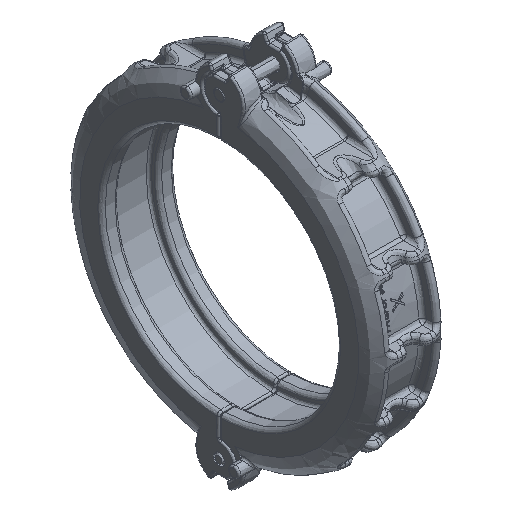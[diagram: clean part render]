
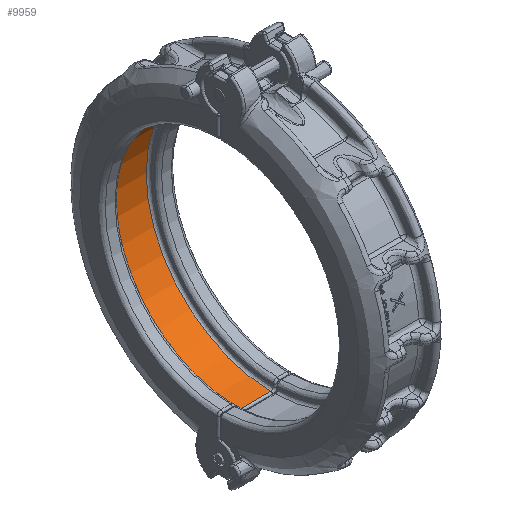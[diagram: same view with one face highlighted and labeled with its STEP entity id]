
A CAD part, isometric view. The second image highlights one B-rep face of the part: STEP entity #9959.
In plain terms, the highlighted free-form (B-spline) face has degree [1, 3] with [2, 19] control points.
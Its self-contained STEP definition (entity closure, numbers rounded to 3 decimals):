
#9959=ADVANCED_FACE('',(#25748),#25749,.T.);
#11317=VERTEX_POINT('',#27165);
#11323=VERTEX_POINT('',#27171);
#11325=EDGE_CURVE('',#11317,#11323,#27173,.T.);
#11999=VERTEX_POINT('',#27847);
#12005=VERTEX_POINT('',#27853);
#12007=EDGE_CURVE('',#11999,#12005,#27855,.T.);
#21523=EDGE_CURVE('',#12005,#11317,#37371,.T.);
#21525=EDGE_CURVE('',#11999,#11323,#37373,.T.);
#25748=FACE_OUTER_BOUND('',#66378,.T.);
#25749=B_SPLINE_SURFACE_WITH_KNOTS('',1,3,((#66379,#66380,#66381,#66382,#66383,#66384,#66385,#66386,#66387,#66388,#66389,#66390,#66391,#66392,#66393,#66394,#66395,#66396,#66397),(#66398,#66399,#66400,#66401,#66402,#66403,#66404,#66405,#66406,#66407,#66408,#66409,#66410,#66411,#66412,#66413,#66414,#66415,#66416)),.UNSPECIFIED.,.F.,.F.,.F.,(2,2),(4,1,1,1,1,1,1,1,1,1,1,1,1,1,1,1,4),(0.0,1.0),(0.0,0.064,0.127,0.191,0.255,0.319,0.383,0.447,0.511,0.575,0.639,0.702,0.766,0.83,0.894,0.958,1.0),.UNSPECIFIED.);
#27165=CARTESIAN_POINT('',(11.534,0.591,33.745));
#27171=CARTESIAN_POINT('',(20.534,0.591,33.745));
#27173=LINE('',#71706,#71707);
#27847=CARTESIAN_POINT('',(20.534,0.591,-33.745));
#27853=CARTESIAN_POINT('',(11.534,0.591,-33.745));
#27855=LINE('',#73308,#73309);
#37371=CIRCLE('',#97255,33.75);
#37373=CIRCLE('',#97258,33.75);
#66378=EDGE_LOOP('',(#105659,#105660,#105661,#105662));
#66379=CARTESIAN_POINT('',(11.534,0.092,-33.75));
#66380=CARTESIAN_POINT('',(11.534,2.329,-33.744));
#66381=CARTESIAN_POINT('',(11.534,6.829,-33.282));
#66382=CARTESIAN_POINT('',(11.534,13.302,-31.264));
#66383=CARTESIAN_POINT('',(11.534,19.258,-27.991));
#66384=CARTESIAN_POINT('',(11.534,24.444,-23.599));
#66385=CARTESIAN_POINT('',(11.534,28.652,-18.261));
#66386=CARTESIAN_POINT('',(11.534,31.714,-12.193));
#66387=CARTESIAN_POINT('',(11.534,33.506,-5.636));
#66388=CARTESIAN_POINT('',(11.534,33.957,1.146));
#66389=CARTESIAN_POINT('',(11.534,33.05,7.882));
#66390=CARTESIAN_POINT('',(11.534,30.82,14.302));
#66391=CARTESIAN_POINT('',(11.534,27.357,20.15));
#66392=CARTESIAN_POINT('',(11.534,22.8,25.19));
#66393=CARTESIAN_POINT('',(11.534,17.332,29.223));
#66394=CARTESIAN_POINT('',(11.534,11.17,32.088));
#66395=CARTESIAN_POINT('',(11.534,5.316,33.489));
#66396=CARTESIAN_POINT('',(11.534,1.575,33.745));
#66397=CARTESIAN_POINT('',(11.534,0.091,33.75));
#66398=CARTESIAN_POINT('',(20.534,0.092,-33.75));
#66399=CARTESIAN_POINT('',(20.534,2.329,-33.744));
#66400=CARTESIAN_POINT('',(20.534,6.829,-33.282));
#66401=CARTESIAN_POINT('',(20.534,13.302,-31.264));
#66402=CARTESIAN_POINT('',(20.534,19.258,-27.991));
#66403=CARTESIAN_POINT('',(20.534,24.444,-23.599));
#66404=CARTESIAN_POINT('',(20.534,28.652,-18.261));
#66405=CARTESIAN_POINT('',(20.534,31.714,-12.193));
#66406=CARTESIAN_POINT('',(20.534,33.506,-5.636));
#66407=CARTESIAN_POINT('',(20.534,33.957,1.146));
#66408=CARTESIAN_POINT('',(20.534,33.05,7.882));
#66409=CARTESIAN_POINT('',(20.534,30.82,14.302));
#66410=CARTESIAN_POINT('',(20.534,27.357,20.15));
#66411=CARTESIAN_POINT('',(20.534,22.8,25.19));
#66412=CARTESIAN_POINT('',(20.534,17.332,29.223));
#66413=CARTESIAN_POINT('',(20.534,11.17,32.088));
#66414=CARTESIAN_POINT('',(20.534,5.316,33.489));
#66415=CARTESIAN_POINT('',(20.534,1.575,33.745));
#66416=CARTESIAN_POINT('',(20.534,0.091,33.75));
#71706=CARTESIAN_POINT('',(11.534,0.591,33.745));
#71707=VECTOR('',#106408,1.0);
#73308=CARTESIAN_POINT('',(20.534,0.591,-33.745));
#73309=VECTOR('',#106655,1.0);
#97255=AXIS2_PLACEMENT_3D('',#109549,#109550,#109551);
#97258=AXIS2_PLACEMENT_3D('',#109552,#109553,#109554);
#105659=ORIENTED_EDGE('',*,*,#12007,.F.);
#105660=ORIENTED_EDGE('',*,*,#21525,.T.);
#105661=ORIENTED_EDGE('',*,*,#11325,.F.);
#105662=ORIENTED_EDGE('',*,*,#21523,.F.);
#106408=DIRECTION('',(1.0,0.,0.));
#106655=DIRECTION('',(-1.0,0.,0.));
#109549=CARTESIAN_POINT('',(11.534,0.,0.));
#109550=DIRECTION('',(1.0,0.,0.));
#109551=DIRECTION('',(0.,0.018,-1.));
#109552=CARTESIAN_POINT('',(20.534,0.,0.));
#109553=DIRECTION('',(1.0,0.,0.));
#109554=DIRECTION('',(0.,0.018,-1.));
